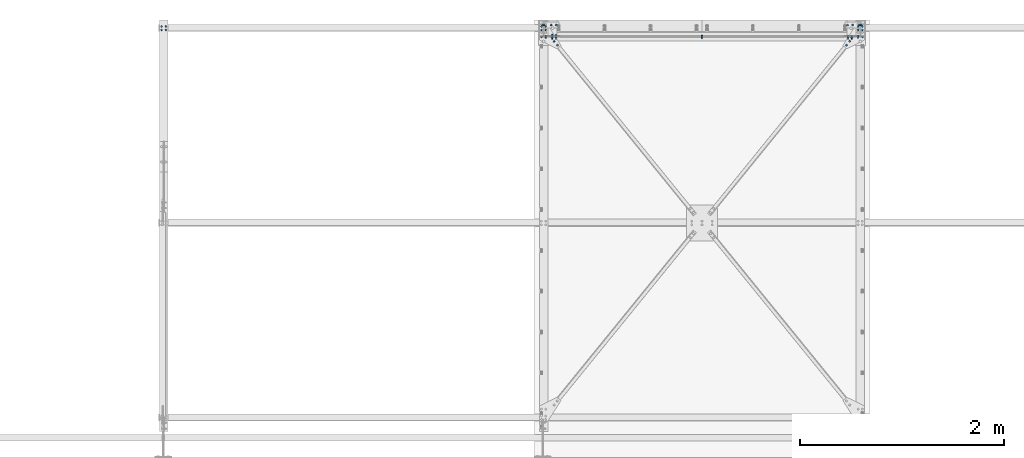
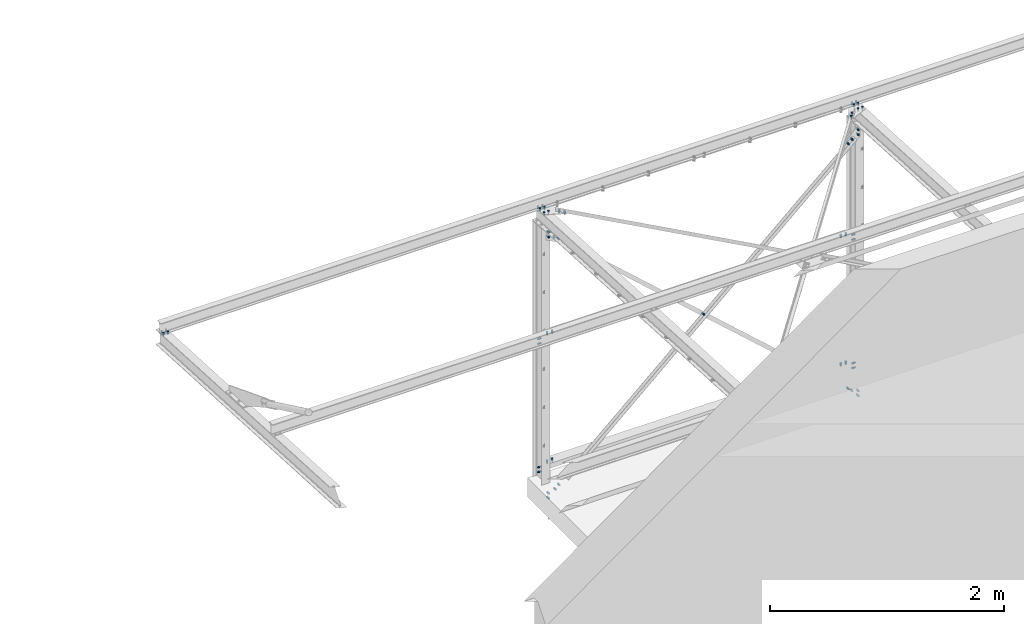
# One storey, part 8 of 10: 24 mechanical fasteners.
"""IFC2X3 building model written with IfcOpenShell, lengths in millimetres."""

from ifc_helpers import new_model, si_unit, frame, origin_with_axes, origin_2d_with_axis, place, context, subcontext, project, spatial, polyline, circle, outline, extrude, source, transform, mapped, material, type_object, element, save


model = new_model("IFC2X3")

# Units and contexts
model_context = context("Model", 3, precision=1e-05, world=origin_with_axes())
body_context = subcontext(model_context, "Body", "Model", "MODEL_VIEW")
ifc_project = project(units=[si_unit("LENGTHUNIT", "METRE", prefix="MILLI"), si_unit("AREAUNIT", "SQUARE_METRE"), si_unit("VOLUMEUNIT", "CUBIC_METRE"), si_unit("MASSUNIT", "GRAM", prefix="KILO"), si_unit("TIMEUNIT", "SECOND"), si_unit("PLANEANGLEUNIT", "RADIAN"), si_unit("SOLIDANGLEUNIT", "STERADIAN"), si_unit("THERMODYNAMICTEMPERATUREUNIT", "DEGREE_CELSIUS"), si_unit("LUMINOUSINTENSITYUNIT", "LUMEN")], contexts=[model_context])

# Site, building, storey
site_placement = place(None, origin_with_axes())
site = spatial("IfcSite", under=ifc_project, at=site_placement, Name="Undefined", CompositionType="ELEMENT")
building_placement = place(site_placement, origin_with_axes())
building = spatial("IfcBuilding", under=site, at=building_placement, Name="Undefined", CompositionType="ELEMENT")
storey_placement = place(building_placement, origin_with_axes())
storey = spatial("IfcBuildingStorey", under=building, at=storey_placement, Name="Undefined", CompositionType="ELEMENT", Elevation=0.0)

# Mechanical fasteners
ifc_material_1 = material(Name="8.8-SB-GALVA")
mechanical_fastener_type = type_object("IfcMechanicalFastenerType", Name="Bolt assembly")
shared_shape_1 = source(origin_with_axes(), body_context, "Body", "SweptSolid", [
    extrude(circle(Radius=7.0, at=origin_2d_with_axis()), frame((0.0, 2.40006625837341, 0.0), z_axis=(0.0, 1.0, 0.0), x_axis=(1.0, 0.0, 0.0)), (0.0, 0.0, 1.0), 4.1),
    extrude(circle(Radius=7.0, at=origin_2d_with_axis()), frame((0.0, -2.4000000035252, 0.0), z_axis=(0.0, 1.0, 0.0), x_axis=(1.0, 0.0, 0.0)), (0.0, 0.0, 1.0), 5.0),
    extrude(outline(polyline([(10.39230484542, 0.0), (5.19615242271, 9.00000000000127), (-5.19615242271, 9.00000000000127), (-10.39230484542, 0.0), (-5.19615242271, -9.00000000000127), (5.19615242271, -9.00000000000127), (10.39230484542, 0.0)])), frame((0.0, -10.4200000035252, 0.0), z_axis=(0.0, 1.0, 0.0), x_axis=(1.0, 0.0, 0.0)), (0.0, 0.0, 1.0), 7.92),
    extrude(circle(Radius=6.0, at=origin_2d_with_axis()), frame((0.0, -2.5000000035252, 0.0), z_axis=(0.0, 1.0, 0.0), x_axis=(1.0, 0.0, 0.0)), (0.0, 0.0, 1.0), 30.0),
    extrude(outline(polyline([(11.5008173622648, 0.0), (5.7504086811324, 9.96000000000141), (-5.7504086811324, 9.96000000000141), (-11.5008173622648, 0.0), (-5.7504086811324, -9.96000000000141), (5.7504086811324, -9.96000000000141), (11.5008173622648, 0.0)])), frame((0.0, 6.50006625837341, 0.0), z_axis=(0.0, 1.0, 0.0), x_axis=(1.0, 0.0, 0.0)), (0.0, 0.0, 1.0), 7.92),
])
mechanical_fastener_1_placement = place(storey_placement, frame((28987.1427146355, 29157.5, 2549.67857384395), z_axis=(0.666970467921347, 0.0, 0.745084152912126), x_axis=(0.745084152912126, 0.0, -0.666970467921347)))
element("IfcMechanicalFastener", 1, at=mechanical_fastener_1_placement, inside=storey, type_object=mechanical_fastener_type, material=ifc_material_1, Name="Bolt assembly", NominalDiameter=12.0, NominalLength=30.0, context=body_context, shape_type="MappedRepresentation", body=[
    mapped(shared_shape_1, transform((0.0, 0.0, 0.0))),
    mapped(shared_shape_1, transform((50.00000000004, 0.0, 1.45519152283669e-10))),
])
shared_shape_2 = source(origin_with_axes(), body_context, "Body", "SweptSolid", [
    extrude(circle(Radius=7.0, at=origin_2d_with_axis()), frame((0.0, -3.90006625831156, 0.0), z_axis=(0.0, 1.0, 0.0), x_axis=(1.0, 0.0, 0.0)), (0.0, 0.0, 1.0), 4.0),
    extrude(circle(Radius=7.0, at=origin_2d_with_axis()), frame((0.0, 4.89993376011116, 0.0), z_axis=(0.0, 1.0, 0.0), x_axis=(1.0, 0.0, 0.0)), (0.0, 0.0, 1.0), 4.1),
    extrude(outline(polyline([(10.39230484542, 0.0), (5.19615242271, 9.00000000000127), (-5.19615242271, 9.00000000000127), (-10.39230484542, 0.0), (-5.19615242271, -9.00000000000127), (5.19615242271, -9.00000000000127), (10.39230484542, 0.0)])), frame((0.0, -11.9200662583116, 0.0), z_axis=(0.0, 1.0, 0.0), x_axis=(1.0, 0.0, 0.0)), (0.0, 0.0, 1.0), 7.92),
    extrude(circle(Radius=6.0, at=origin_2d_with_axis()), frame((0.0, -4.00006625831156, 0.0), z_axis=(0.0, 1.0, 0.0), x_axis=(1.0, 0.0, 0.0)), (0.0, 0.0, 1.0), 30.0),
    extrude(outline(polyline([(11.5008173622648, 0.0), (5.7504086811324, 9.96000000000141), (-5.7504086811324, 9.96000000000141), (-11.5008173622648, 0.0), (-5.7504086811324, -9.96000000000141), (5.7504086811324, -9.96000000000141), (11.5008173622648, 0.0)])), frame((0.0, 8.9999337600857, 0.0), z_axis=(0.0, 1.0, 0.0), x_axis=(1.0, 0.0, 0.0)), (0.0, 0.0, 1.0), 7.92),
])
mechanical_fastener_2_placement = place(storey_placement, frame((30452.999913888, 29160.0, 1237.49999863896), z_axis=(-1.0, 0.0, 0.0), x_axis=(1.80000123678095e-08, 0.0, -1.0)))
element("IfcMechanicalFastener", 2, at=mechanical_fastener_2_placement, inside=storey, type_object=mechanical_fastener_type, material=ifc_material_1, Name="Bolt assembly", NominalDiameter=12.0, NominalLength=30.0, context=body_context, shape_type="MappedRepresentation", body=[
    mapped(shared_shape_2, transform((0.0, 0.0, 0.0))),
])
shared_shape_3 = source(origin_with_axes(), body_context, "Body", "SweptSolid", [
    extrude(circle(Radius=7.0, at=origin_2d_with_axis()), frame((0.0, -6.40006625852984, 0.0), z_axis=(0.0, 1.0, 0.0), x_axis=(1.0, 0.0, 0.0)), (0.0, 0.0, 1.0), 4.0),
    extrude(circle(Radius=7.0, at=origin_2d_with_axis()), frame((0.0, -2.60000006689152, 0.0), z_axis=(0.0, 1.0, 0.0), x_axis=(1.0, 0.0, 0.0)), (0.0, 0.0, 1.0), 5.1),
    extrude(outline(polyline([(10.39230484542, 0.0), (5.19615242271, 9.00000000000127), (-5.19615242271, 9.00000000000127), (-10.39230484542, 0.0), (-5.19615242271, -9.00000000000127), (5.19615242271, -9.00000000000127), (10.39230484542, 0.0)])), frame((0.0, -14.4200662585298, 0.0), z_axis=(0.0, 1.0, 0.0), x_axis=(1.0, 0.0, 0.0)), (0.0, 0.0, 1.0), 7.92),
    extrude(circle(Radius=6.0, at=origin_2d_with_axis()), frame((0.0, -6.50006625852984, 0.0), z_axis=(0.0, 1.0, 0.0), x_axis=(1.0, 0.0, 0.0)), (0.0, 0.0, 1.0), 30.0),
    extrude(outline(polyline([(11.5008173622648, 0.0), (5.7504086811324, 9.96000000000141), (-5.7504086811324, 9.96000000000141), (-11.5008173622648, 0.0), (-5.7504086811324, -9.96000000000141), (5.7504086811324, -9.96000000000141), (11.5008173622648, 0.0)])), frame((0.0, 2.49999993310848, 0.0), z_axis=(0.0, 1.0, 0.0), x_axis=(1.0, 0.0, 0.0)), (0.0, 0.0, 1.0), 7.92),
])
mechanical_fastener_3_placement = place(storey_placement, frame((31918.8572022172, 29157.5, -74.6786560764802), z_axis=(0.666970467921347, 0.0, 0.745084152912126), x_axis=(-0.74508415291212, 0.0, 0.666970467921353)))
element("IfcMechanicalFastener", 3, at=mechanical_fastener_3_placement, inside=storey, type_object=mechanical_fastener_type, material=ifc_material_1, Name="Bolt assembly", NominalDiameter=12.0, NominalLength=30.0, context=body_context, shape_type="MappedRepresentation", body=[
    mapped(shared_shape_3, transform((0.0, 0.0, 0.0))),
    mapped(shared_shape_3, transform((50.00000000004, 0.0, 1.45519152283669e-10))),
])
shared_shape_4 = source(origin_with_axes(), body_context, "Body", "SweptSolid", [
    extrude(circle(Radius=7.0, at=origin_2d_with_axis()), frame((0.0, 2.39993376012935, 0.0), z_axis=(0.0, 1.0, 0.0), x_axis=(1.0, 0.0, 0.0)), (0.0, 0.0, 1.0), 4.1),
    extrude(circle(Radius=7.0, at=origin_2d_with_axis()), frame((0.0, -2.4000000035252, 0.0), z_axis=(0.0, 1.0, 0.0), x_axis=(1.0, 0.0, 0.0)), (0.0, 0.0, 1.0), 5.0),
    extrude(outline(polyline([(10.39230484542, 0.0), (5.19615242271, 9.00000000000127), (-5.19615242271, 9.00000000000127), (-10.39230484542, 0.0), (-5.19615242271, -9.00000000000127), (5.19615242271, -9.00000000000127), (10.39230484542, 0.0)])), frame((0.0, -10.4200000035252, 0.0), z_axis=(0.0, 1.0, 0.0), x_axis=(1.0, 0.0, 0.0)), (0.0, 0.0, 1.0), 7.92),
    extrude(circle(Radius=6.0, at=origin_2d_with_axis()), frame((0.0, -2.5000000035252, 0.0), z_axis=(0.0, 1.0, 0.0), x_axis=(1.0, 0.0, 0.0)), (0.0, 0.0, 1.0), 30.0),
    extrude(outline(polyline([(11.5008173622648, 0.0), (5.7504086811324, 9.96000000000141), (-5.7504086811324, 9.96000000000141), (-11.5008173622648, 0.0), (-5.7504086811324, -9.96000000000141), (5.7504086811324, -9.96000000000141), (11.5008173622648, 0.0)])), frame((0.0, 6.49993376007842, 0.0), z_axis=(0.0, 1.0, 0.0), x_axis=(1.0, 0.0, 0.0)), (0.0, 0.0, 1.0), 7.92),
])
for number, where, z_axis, x_axis, name in (
    (4, (28987.1427142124, 29157.5, -74.6786701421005), (0.666970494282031, 0.0, -0.745084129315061), (0.745084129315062, 0.0, 0.66697049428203), "Bolt assembly"),
    (5, (31918.8571655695, 29157.5, 2549.67871421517), (-0.666970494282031, 0.0, 0.745084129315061), (-0.745084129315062, 0.0, -0.666970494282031), "Bolt assembly"),
):
    element("IfcMechanicalFastener", number, at=place(storey_placement, frame(where, z_axis=z_axis, x_axis=x_axis)), inside=storey, type_object=mechanical_fastener_type, material=ifc_material_1, Name=name, NominalDiameter=12.0, NominalLength=30.0, context=body_context, shape_type="MappedRepresentation", body=[
        mapped(shared_shape_4, transform((0.0, 0.0, 0.0))),
        mapped(shared_shape_4, transform((50.00000000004, 0.0, 1.45519152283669e-10))),
    ])
shared_shape_5 = source(origin_with_axes(), body_context, "Body", "SweptSolid", [
    extrude(circle(Radius=7.0, at=origin_2d_with_axis()), frame((0.0, -7.30184983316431, 0.0), z_axis=(0.0, 1.0, 0.0), x_axis=(1.0, 0.0, 0.0)), (0.0, 0.0, 1.0), 7.4),
    extrude(circle(Radius=7.0, at=origin_2d_with_axis()), frame((0.0, -0.10176059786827, 0.0), z_axis=(0.0, 1.0, 0.0), x_axis=(1.0, 0.0, 0.0)), (0.0, 0.0, 1.0), 5.1),
    extrude(outline(polyline([(10.39230484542, 0.0), (5.19615242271, 9.00000000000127), (-5.19615242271, 9.00000000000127), (-10.39230484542, 0.0), (-5.19615242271, -9.00000000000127), (5.19615242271, -9.00000000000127), (10.39230484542, 0.0)])), frame((0.0, -15.3218498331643, 0.0), z_axis=(0.0, 1.0, 0.0), x_axis=(1.0, 0.0, 0.0)), (0.0, 0.0, 1.0), 7.92),
    extrude(circle(Radius=6.0, at=origin_2d_with_axis()), frame((0.0, -7.40184983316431, 0.0), z_axis=(0.0, 1.0, 0.0), x_axis=(1.0, 0.0, 0.0)), (0.0, 0.0, 1.0), 30.0),
    extrude(outline(polyline([(11.5008173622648, 0.0), (5.7504086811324, 9.96000000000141), (-5.7504086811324, 9.96000000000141), (-11.5008173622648, 0.0), (-5.7504086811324, -9.96000000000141), (5.7504086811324, -9.96000000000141), (11.5008173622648, 0.0)])), frame((0.0, 4.99823941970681, 0.0), z_axis=(0.0, 1.0, 0.0), x_axis=(1.0, 0.0, 0.0)), (0.0, 0.0, 1.0), 7.92),
])
mechanical_fastener_4_placement = place(storey_placement, frame((31981.9998621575, 29159.9982394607, 2624.99961292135), z_axis=(-0.999999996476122, -8.38360000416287e-05, 4.39099999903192e-06), x_axis=(-4.39100001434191e-06, 0.0, -0.99999999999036)))
element("IfcMechanicalFastener", 6, at=mechanical_fastener_4_placement, inside=storey, type_object=mechanical_fastener_type, material=ifc_material_1, Name="Bolt assembly", NominalDiameter=12.0, NominalLength=30.0, context=body_context, shape_type="MappedRepresentation", body=[
    mapped(shared_shape_5, transform((0.0, 0.0, 0.0))),
    mapped(shared_shape_5, transform((50.00000000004, 0.0, 1.45519152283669e-10))),
])
shared_shape_6 = source(origin_with_axes(), body_context, "Body", "SweptSolid", [
    extrude(circle(Radius=7.0, at=origin_2d_with_axis()), frame((0.0, -7.29830585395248, 0.0), z_axis=(0.0, 1.0, 0.0), x_axis=(1.0, 0.0, 0.0)), (0.0, 0.0, 1.0), 7.4),
    extrude(circle(Radius=7.0, at=origin_2d_with_axis()), frame((0.0, -0.0982394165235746, 0.0), z_axis=(0.0, 1.0, 0.0), x_axis=(1.0, 0.0, 0.0)), (0.0, 0.0, 1.0), 5.1),
    extrude(outline(polyline([(10.39230484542, 0.0), (5.19615242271, 9.00000000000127), (-5.19615242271, 9.00000000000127), (-10.39230484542, 0.0), (-5.19615242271, -9.00000000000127), (5.19615242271, -9.00000000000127), (10.39230484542, 0.0)])), frame((0.0, -15.3183058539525, 0.0), z_axis=(0.0, 1.0, 0.0), x_axis=(1.0, 0.0, 0.0)), (0.0, 0.0, 1.0), 7.92),
    extrude(circle(Radius=6.0, at=origin_2d_with_axis()), frame((0.0, -7.39830585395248, 0.0), z_axis=(0.0, 1.0, 0.0), x_axis=(1.0, 0.0, 0.0)), (0.0, 0.0, 1.0), 30.0),
    extrude(outline(polyline([(11.5008173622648, 0.0), (5.7504086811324, 9.96000000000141), (-5.7504086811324, 9.96000000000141), (-11.5008173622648, 0.0), (-5.7504086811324, -9.96000000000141), (5.7504086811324, -9.96000000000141), (11.5008173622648, 0.0)])), frame((0.0, 5.0017606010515, 0.0), z_axis=(0.0, 1.0, 0.0), x_axis=(1.0, 0.0, 0.0)), (0.0, 0.0, 1.0), 7.92),
])
mechanical_fastener_5_placement = place(storey_placement, frame((28923.9998592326, 29160.00176058, 2624.99990587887), z_axis=(-0.999999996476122, -8.38360000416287e-05, 4.39099999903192e-06), x_axis=(-4.39100001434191e-06, 0.0, -0.99999999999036)))
element("IfcMechanicalFastener", 7, at=mechanical_fastener_5_placement, inside=storey, type_object=mechanical_fastener_type, material=ifc_material_1, Name="Bolt assembly", NominalDiameter=12.0, NominalLength=30.0, context=body_context, shape_type="MappedRepresentation", body=[
    mapped(shared_shape_6, transform((0.0, 0.0, 0.0))),
    mapped(shared_shape_6, transform((50.00000000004, 0.0, 1.45519152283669e-10))),
])
shared_shape_7 = source(origin_with_axes(), body_context, "Body", "SweptSolid", [
    extrude(circle(Radius=7.0, at=origin_2d_with_axis()), frame((0.0, -7.30007158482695, 0.0), z_axis=(0.0, 1.0, 0.0), x_axis=(1.0, 0.0, 0.0)), (0.0, 0.0, 1.0), 7.4),
    extrude(circle(Radius=7.0, at=origin_2d_with_axis()), frame((0.0, -0.100005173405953, 0.0), z_axis=(0.0, 1.0, 0.0), x_axis=(1.0, 0.0, 0.0)), (0.0, 0.0, 1.0), 5.1),
    extrude(outline(polyline([(10.39230484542, 0.0), (5.19615242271, 9.00000000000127), (-5.19615242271, 9.00000000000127), (-10.39230484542, 0.0), (-5.19615242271, -9.00000000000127), (5.19615242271, -9.00000000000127), (10.39230484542, 0.0)])), frame((0.0, -15.3200715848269, 0.0), z_axis=(0.0, 1.0, 0.0), x_axis=(1.0, 0.0, 0.0)), (0.0, 0.0, 1.0), 7.92),
    extrude(circle(Radius=6.0, at=origin_2d_with_axis()), frame((0.0, -7.40002311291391, 0.0), z_axis=(0.0, 1.0, 0.0), x_axis=(1.0, 0.0, 0.0)), (0.0, 0.0, 1.0), 30.0),
    extrude(outline(polyline([(11.5008173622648, 0.0), (5.7504086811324, 9.96000000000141), (-5.7504086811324, 9.96000000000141), (-11.5008173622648, 0.0), (-5.7504086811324, -9.96000000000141), (5.7504086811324, -9.96000000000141), (11.5008173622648, 0.0)])), frame((0.0, 4.99999482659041, 0.0), z_axis=(0.0, 1.0, 0.0), x_axis=(1.0, 0.0, 0.0)), (0.0, 0.0, 1.0), 7.92),
])
mechanical_fastener_6_placement = place(storey_placement, frame((28923.9999698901, 29159.9999948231, -149.999999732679), z_axis=(1.0, 0.0, 0.0), x_axis=(0.0, 0.0, 1.0)))
element("IfcMechanicalFastener", 8, at=mechanical_fastener_6_placement, inside=storey, type_object=mechanical_fastener_type, material=ifc_material_1, Name="Bolt assembly", NominalDiameter=12.0, NominalLength=30.0, context=body_context, shape_type="MappedRepresentation", body=[
    mapped(shared_shape_7, transform((0.0, 0.0, 0.0))),
    mapped(shared_shape_7, transform((50.00000000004, 0.0, 1.45519152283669e-10))),
])
shared_shape_8 = source(origin_with_axes(), body_context, "Body", "SweptSolid", [
    extrude(circle(Radius=7.0, at=origin_2d_with_axis()), frame((0.0, -7.30007158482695, 0.0), z_axis=(0.0, 1.0, 0.0), x_axis=(1.0, 0.0, 0.0)), (0.0, 0.0, 1.0), 7.4),
    extrude(circle(Radius=7.0, at=origin_2d_with_axis()), frame((0.0, -0.100005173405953, 0.0), z_axis=(0.0, 1.0, 0.0), x_axis=(1.0, 0.0, 0.0)), (0.0, 0.0, 1.0), 5.1),
    extrude(outline(polyline([(10.39230484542, 0.0), (5.19615242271, 9.00000000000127), (-5.19615242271, 9.00000000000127), (-10.39230484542, 0.0), (-5.19615242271, -9.00000000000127), (5.19615242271, -9.00000000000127), (10.39230484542, 0.0)])), frame((0.0, -15.3200715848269, 0.0), z_axis=(0.0, 1.0, 0.0), x_axis=(1.0, 0.0, 0.0)), (0.0, 0.0, 1.0), 7.92),
    extrude(circle(Radius=6.0, at=origin_2d_with_axis()), frame((0.0, -7.40008403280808, 0.0), z_axis=(0.0, 1.0, 0.0), x_axis=(1.0, 0.0, 0.0)), (0.0, 0.0, 1.0), 30.0),
    extrude(outline(polyline([(11.5008173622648, 0.0), (5.7504086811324, 9.96000000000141), (-5.7504086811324, 9.96000000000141), (-11.5008173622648, 0.0), (-5.7504086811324, -9.96000000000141), (5.7504086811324, -9.96000000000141), (11.5008173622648, 0.0)])), frame((0.0, 4.99999482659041, 0.0), z_axis=(0.0, 1.0, 0.0), x_axis=(1.0, 0.0, 0.0)), (0.0, 0.0, 1.0), 7.92),
])
mechanical_fastener_7_placement = place(storey_placement, frame((31981.9999712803, 29160.0000052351, -150.000000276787), z_axis=(1.0, 0.0, 0.0), x_axis=(0.0, 0.0, 1.0)))
element("IfcMechanicalFastener", 9, at=mechanical_fastener_7_placement, inside=storey, type_object=mechanical_fastener_type, material=ifc_material_1, Name="Bolt assembly", NominalDiameter=12.0, NominalLength=30.0, context=body_context, shape_type="MappedRepresentation", body=[
    mapped(shared_shape_8, transform((0.0, 0.0, 0.0))),
    mapped(shared_shape_8, transform((50.00000000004, 0.0, 1.45519152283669e-10))),
])
shared_shape_9 = source(origin_with_axes(), body_context, "Body", "SweptSolid", [
    extrude(circle(Radius=7.0, at=origin_2d_with_axis()), frame((0.0, 0.100000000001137, 0.0), z_axis=(0.0, 1.0, 0.0), x_axis=(1.0, 0.0, 0.0)), (0.0, 0.0, 1.0), 4.0),
    extrude(circle(Radius=7.0, at=origin_2d_with_axis()), frame((0.0, 3.89999939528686, 0.0), z_axis=(0.0, 1.0, 0.0), x_axis=(1.0, 0.0, 0.0)), (0.0, 0.0, 1.0), 5.1),
    extrude(outline(polyline([(10.39230484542, 0.0), (5.19615242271, 9.00000000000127), (-5.19615242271, 9.00000000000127), (-10.39230484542, 0.0), (-5.19615242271, -9.00000000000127), (5.19615242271, -9.00000000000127), (10.39230484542, 0.0)])), frame((0.0, -7.91999999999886, 0.0), z_axis=(0.0, 1.0, 0.0), x_axis=(1.0, 0.0, 0.0)), (0.0, 0.0, 1.0), 7.92),
    extrude(circle(Radius=6.0, at=origin_2d_with_axis()), frame((0.0, 0.0, 0.0), z_axis=(0.0, 1.0, 0.0), x_axis=(1.0, 0.0, 0.0)), (0.0, 0.0, 1.0), 30.0),
    extrude(outline(polyline([(11.5008173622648, 0.0), (5.7504086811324, 9.96000000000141), (-5.7504086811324, 9.96000000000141), (-11.5008173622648, 0.0), (-5.7504086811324, -9.96000000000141), (5.7504086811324, -9.96000000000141), (11.5008173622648, 0.0)])), frame((0.0, 8.99999939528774, 0.0), z_axis=(0.0, 1.0, 0.0), x_axis=(1.0, 0.0, 0.0)), (0.0, 0.0, 1.0), 7.92),
])
for number, where, z_axis, x_axis, name in (
    (10, (29027.9942734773, 29270.0000223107, 150.0), (-8.92000021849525e-07, -0.999999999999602, 0.0), (-1.0, 0.0, 0.0), "Bolt assembly"),
    (11, (29027.9942734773, 29270.0000223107, 1490.0), (-8.92000021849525e-07, -0.999999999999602, 0.0), (-1.0, 0.0, 0.0), "Bolt assembly"),
    (12, (31877.9999406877, 29270.000022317, 150.0), (0.0, 1.0, 0.0), (1.0, 0.0, 0.0), "Bolt assembly"),
    (13, (31877.9999406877, 29270.000022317, 1490.0), (0.0, 1.0, 0.0), (1.0, 0.0, 0.0), "Bolt assembly"),
):
    element("IfcMechanicalFastener", number, at=place(storey_placement, frame(where, z_axis=z_axis, x_axis=x_axis)), inside=storey, type_object=mechanical_fastener_type, material=ifc_material_1, Name=name, NominalDiameter=12.0, NominalLength=30.0, context=body_context, shape_type="MappedRepresentation", body=[
        mapped(shared_shape_9, transform((0.0, 0.0, 0.0))),
        mapped(shared_shape_9, transform((50.00000000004, 0.0, 1.45519152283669e-10))),
    ])
shared_shape_10 = source(origin_with_axes(), body_context, "Body", "SweptSolid", [
    extrude(circle(Radius=7.0, at=origin_2d_with_axis()), frame((0.0, -2.60569496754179, 0.0), z_axis=(0.0, 1.0, 0.0), x_axis=(1.0, 0.0, 0.0)), (0.0, 0.0, 1.0), 5.1),
    extrude(circle(Radius=7.0, at=origin_2d_with_axis()), frame((0.0, -7.8999994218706, 0.0), z_axis=(0.0, 1.0, 0.0), x_axis=(1.0, 0.0, 0.0)), (0.0, 0.0, 1.0), 5.0),
    extrude(outline(polyline([(10.39230484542, 0.0), (5.19615242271, 9.00000000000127), (-5.19615242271, 9.00000000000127), (-10.39230484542, 0.0), (-5.19615242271, -9.00000000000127), (5.19615242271, -9.00000000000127), (10.39230484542, 0.0)])), frame((0.0, -15.9199994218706, 0.0), z_axis=(0.0, 1.0, 0.0), x_axis=(1.0, 0.0, 0.0)), (0.0, 0.0, 1.0), 7.92),
    extrude(circle(Radius=6.0, at=origin_2d_with_axis()), frame((0.0, -7.9999994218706, 0.0), z_axis=(0.0, 1.0, 0.0), x_axis=(1.0, 0.0, 0.0)), (0.0, 0.0, 1.0), 30.0),
    extrude(outline(polyline([(11.5008173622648, 0.0), (5.7504086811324, 9.96000000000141), (-5.7504086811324, 9.96000000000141), (-11.5008173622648, 0.0), (-5.7504086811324, -9.96000000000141), (5.7504086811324, -9.96000000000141), (11.5008173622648, 0.0)])), frame((0.0, 2.49430503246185, 0.0), z_axis=(0.0, 1.0, 0.0), x_axis=(1.0, 0.0, 0.0)), (0.0, 0.0, 1.0), 7.92),
])
for number, where, z_axis, x_axis, name in (
    (14, (28902.994243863, 29270.0000000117, 61.0000006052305), (-8.92000021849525e-07, -0.999999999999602, 0.0), (0.0, 0.0, 1.0), "Bolt assembly"),
    (15, (28902.994243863, 29270.0000000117, 1401.00000060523), (-8.92000021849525e-07, -0.999999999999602, 0.0), (0.0, 0.0, 1.0), "Bolt assembly"),
):
    element("IfcMechanicalFastener", number, at=place(storey_placement, frame(where, z_axis=z_axis, x_axis=x_axis)), inside=storey, type_object=mechanical_fastener_type, material=ifc_material_1, Name=name, NominalDiameter=12.0, NominalLength=30.0, context=body_context, shape_type="MappedRepresentation", body=[
        mapped(shared_shape_10, transform((0.0, 0.0, 0.0))),
        mapped(shared_shape_10, transform((50.00000000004, 0.0, 1.45519152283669e-10))),
    ])
shared_shape_11 = source(origin_with_axes(), body_context, "Body", "SweptSolid", [
    extrude(circle(Radius=7.0, at=origin_2d_with_axis()), frame((0.0, -2.60000006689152, 0.0), z_axis=(0.0, 1.0, 0.0), x_axis=(1.0, 0.0, 0.0)), (0.0, 0.0, 1.0), 5.1),
    extrude(circle(Radius=7.0, at=origin_2d_with_axis()), frame((0.0, -7.8999994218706, 0.0), z_axis=(0.0, 1.0, 0.0), x_axis=(1.0, 0.0, 0.0)), (0.0, 0.0, 1.0), 5.0),
    extrude(outline(polyline([(10.39230484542, 0.0), (5.19615242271, 9.00000000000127), (-5.19615242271, 9.00000000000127), (-10.39230484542, 0.0), (-5.19615242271, -9.00000000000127), (5.19615242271, -9.00000000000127), (10.39230484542, 0.0)])), frame((0.0, -15.9199994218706, 0.0), z_axis=(0.0, 1.0, 0.0), x_axis=(1.0, 0.0, 0.0)), (0.0, 0.0, 1.0), 7.92),
    extrude(circle(Radius=6.0, at=origin_2d_with_axis()), frame((0.0, -7.9999994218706, 0.0), z_axis=(0.0, 1.0, 0.0), x_axis=(1.0, 0.0, 0.0)), (0.0, 0.0, 1.0), 30.0),
    extrude(outline(polyline([(11.5008173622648, 0.0), (5.7504086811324, 9.96000000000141), (-5.7504086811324, 9.96000000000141), (-11.5008173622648, 0.0), (-5.7504086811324, -9.96000000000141), (5.7504086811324, -9.96000000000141), (11.5008173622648, 0.0)])), frame((0.0, 2.49999993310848, 0.0), z_axis=(0.0, 1.0, 0.0), x_axis=(1.0, 0.0, 0.0)), (0.0, 0.0, 1.0), 7.92),
])
for number, where, z_axis, x_axis, name in (
    (16, (32002.999970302, 29270.0000000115, 61.0000006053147), (0.0, 1.0, 0.0), (0.0, 0.0, 1.0), "Bolt assembly"),
    (17, (32002.999970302, 29270.0000000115, 1401.00000060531), (0.0, 1.0, 0.0), (0.0, 0.0, 1.0), "Bolt assembly"),
):
    element("IfcMechanicalFastener", number, at=place(storey_placement, frame(where, z_axis=z_axis, x_axis=x_axis)), inside=storey, type_object=mechanical_fastener_type, material=ifc_material_1, Name=name, NominalDiameter=12.0, NominalLength=30.0, context=body_context, shape_type="MappedRepresentation", body=[
        mapped(shared_shape_11, transform((0.0, 0.0, 0.0))),
        mapped(shared_shape_11, transform((50.00000000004, 0.0, 1.45519152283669e-10))),
    ])
ifc_material_2 = material(Name="6.8")
shared_shape_12 = source(origin_with_axes(), body_context, "Body", "SweptSolid", [
    extrude(circle(Radius=6.0, at=origin_2d_with_axis()), frame((0.0, -0.100005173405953, 0.0), z_axis=(0.0, 1.0, 0.0), x_axis=(1.0, 0.0, 0.0)), (0.0, 0.0, 1.0), 7.5),
    extrude(circle(Radius=6.0, at=origin_2d_with_axis()), frame((0.0, -2.4000000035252, 0.0), z_axis=(0.0, 1.0, 0.0), x_axis=(1.0, 0.0, 0.0)), (0.0, 0.0, 1.0), 5.0),
    extrude(outline(polyline([(9.81495457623, 0.0), (4.907477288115, 8.5000000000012), (-4.907477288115, 8.5000000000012), (-9.81495457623, 0.0), (-4.907477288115, -8.5000000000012), (4.907477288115, -8.5000000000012), (9.81495457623, 0.0)])), frame((0.0, -9.99999892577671, 0.0), z_axis=(0.0, 1.0, 0.0), x_axis=(1.0, 0.0, 0.0)), (0.0, 0.0, 1.0), 7.5),
    extrude(circle(Radius=5.0, at=origin_2d_with_axis()), frame((0.0, -2.5000000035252, 0.0), z_axis=(0.0, 1.0, 0.0), x_axis=(1.0, 0.0, 0.0)), (0.0, 0.0, 1.0), 30.0),
    extrude(outline(polyline([(9.23760430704, 0.0), (4.61880215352, 8.00000000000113), (-4.61880215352, 8.00000000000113), (-9.23760430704, 0.0), (-4.61880215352, -8.00000000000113), (4.61880215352, -8.00000000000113), (9.23760430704, 0.0)])), frame((0.0, 7.40000130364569, 0.0), z_axis=(0.0, 1.0, 0.0), x_axis=(1.0, 0.0, 0.0)), (0.0, 0.0, 1.0), 8.4),
])
for number, where, z_axis, x_axis, name in (
    (18, (32002.9999505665, 29154.0293190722, 2842.50322976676), (-1.0, 0.0, 0.0), (-6.99999093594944e-09, 0.998630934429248, -0.0523092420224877), "Bolt assembly"),
    (19, (28902.9999505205, 29154.0292943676, 2842.50323106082), (-1.0, 0.0, 0.0), (-6.99999093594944e-09, 0.998630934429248, -0.0523092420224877), "Bolt assembly"),
):
    element("IfcMechanicalFastener", number, at=place(storey_placement, frame(where, z_axis=z_axis, x_axis=x_axis)), inside=storey, type_object=mechanical_fastener_type, material=ifc_material_2, Name=name, NominalDiameter=10.0, NominalLength=30.0, context=body_context, shape_type="MappedRepresentation", body=[
        mapped(shared_shape_12, transform((0.0, 0.0, -21.0))),
        mapped(shared_shape_12, transform((0.0, 0.0, 21.0))),
    ])
shared_shape_13 = source(origin_with_axes(), body_context, "Body", "SweptSolid", [
    extrude(circle(Radius=7.0, at=origin_2d_with_axis()), frame((0.0, -6.89999965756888, 0.0), z_axis=(0.0, 1.0, 0.0), x_axis=(1.0, 0.0, 0.0)), (0.0, 0.0, 1.0), 4.0),
    extrude(circle(Radius=7.0, at=origin_2d_with_axis()), frame((0.0, -2.60000006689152, 0.0), z_axis=(0.0, 1.0, 0.0), x_axis=(1.0, 0.0, 0.0)), (0.0, 0.0, 1.0), 5.1),
    extrude(outline(polyline([(10.39230484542, 0.0), (5.19615242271, 9.00000000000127), (-5.19615242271, 9.00000000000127), (-10.39230484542, 0.0), (-5.19615242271, -9.00000000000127), (5.19615242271, -9.00000000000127), (10.39230484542, 0.0)])), frame((0.0, -14.9199996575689, 0.0), z_axis=(0.0, 1.0, 0.0), x_axis=(1.0, 0.0, 0.0)), (0.0, 0.0, 1.0), 7.92),
    extrude(circle(Radius=6.0, at=origin_2d_with_axis()), frame((0.0, -6.99999965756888, 0.0), z_axis=(0.0, 1.0, 0.0), x_axis=(1.0, 0.0, 0.0)), (0.0, 0.0, 1.0), 30.0),
    extrude(outline(polyline([(11.5008173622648, 0.0), (5.7504086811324, 9.96000000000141), (-5.7504086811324, 9.96000000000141), (-11.5008173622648, 0.0), (-5.7504086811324, -9.96000000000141), (5.7504086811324, -9.96000000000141), (11.5008173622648, 0.0)])), frame((0.0, 2.49999993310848, 0.0), z_axis=(0.0, 1.0, 0.0), x_axis=(1.0, 0.0, 0.0)), (0.0, 0.0, 1.0), 7.92),
])
for number, where, z_axis, x_axis, name in (
    (20, (29006.7896570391, 29112.2793146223, 2844.69013130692), (0.776487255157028, 0.629270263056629, -0.0329617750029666), (0.630132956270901, -0.775424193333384, 0.0406174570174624), "Bolt assembly"),
    (21, (31899.2102214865, 29112.2793323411, 2844.69013037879), (0.776487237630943, -0.629270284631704, 0.0329617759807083), (-0.630132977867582, -0.775424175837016, 0.0406174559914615), "Bolt assembly"),
):
    element("IfcMechanicalFastener", number, at=place(storey_placement, frame(where, z_axis=z_axis, x_axis=x_axis)), inside=storey, type_object=mechanical_fastener_type, material=ifc_material_1, Name=name, NominalDiameter=12.0, NominalLength=30.0, context=body_context, shape_type="MappedRepresentation", body=[
        mapped(shared_shape_13, transform((0.0, 0.0, 0.0))),
        mapped(shared_shape_13, transform((50.00000000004, 0.0, 1.45519152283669e-10))),
    ])
shared_shape_14 = source(origin_with_axes(), body_context, "Body", "SweptSolid", [
    extrude(circle(Radius=6.0, at=origin_2d_with_axis()), frame((0.0, -0.100005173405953, 0.0), z_axis=(0.0, 1.0, 0.0), x_axis=(1.0, 0.0, 0.0)), (0.0, 0.0, 1.0), 7.5),
    extrude(circle(Radius=6.0, at=origin_2d_with_axis()), frame((0.0, -6.19999893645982, 0.0), z_axis=(0.0, 1.0, 0.0), x_axis=(1.0, 0.0, 0.0)), (0.0, 0.0, 1.0), 6.3),
    extrude(outline(polyline([(9.81495457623, 0.0), (4.907477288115, 8.5000000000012), (-4.907477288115, 8.5000000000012), (-9.81495457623, 0.0), (-4.907477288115, -8.5000000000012), (4.907477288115, -8.5000000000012), (9.81495457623, 0.0)])), frame((0.0, -13.7999989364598, 0.0), z_axis=(0.0, 1.0, 0.0), x_axis=(1.0, 0.0, 0.0)), (0.0, 0.0, 1.0), 7.5),
    extrude(circle(Radius=5.0, at=origin_2d_with_axis()), frame((0.0, -6.29999893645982, 0.0), z_axis=(0.0, 1.0, 0.0), x_axis=(1.0, 0.0, 0.0)), (0.0, 0.0, 1.0), 30.0),
    extrude(outline(polyline([(9.23760430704, 0.0), (4.61880215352, 8.00000000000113), (-4.61880215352, 8.00000000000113), (-9.23760430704, 0.0), (-4.61880215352, -8.00000000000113), (4.61880215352, -8.00000000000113), (9.23760430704, 0.0)])), frame((0.0, 7.40000130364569, 0.0), z_axis=(0.0, 1.0, 0.0), x_axis=(1.0, 0.0, 0.0)), (0.0, 0.0, 1.0), 8.4),
])
mechanical_fastener_8_placement = place(storey_placement, frame((25163.9999692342, 29240.0000640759, 2837.99999845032), z_axis=(-6.99999093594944e-09, 0.998630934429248, -0.0523092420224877), x_axis=(1.0, 0.0, 0.0)))
element("IfcMechanicalFastener", 22, at=mechanical_fastener_8_placement, inside=storey, type_object=mechanical_fastener_type, material=ifc_material_2, Name="Bolt assembly", NominalDiameter=10.0, NominalLength=30.0, context=body_context, shape_type="MappedRepresentation", body=[
    mapped(shared_shape_14, transform((0.0, 3.18323145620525e-11, -16.9999999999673))),
    mapped(shared_shape_14, transform((42.0, 3.18323145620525e-11, -16.9999999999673))),
    mapped(shared_shape_14, transform((0.0, -3.18323145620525e-11, 16.9999999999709))),
    mapped(shared_shape_14, transform((42.0, -3.18323145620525e-11, 16.9999999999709))),
])
shared_shape_15 = source(origin_with_axes(), body_context, "Body", "SweptSolid", [
    extrude(circle(Radius=6.0, at=origin_2d_with_axis()), frame((0.0, -0.100005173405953, 0.0), z_axis=(0.0, 1.0, 0.0), x_axis=(1.0, 0.0, 0.0)), (0.0, 0.0, 1.0), 7.5),
    extrude(circle(Radius=6.0, at=origin_2d_with_axis()), frame((0.0, -6.19999893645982, 0.0), z_axis=(0.0, 1.0, 0.0), x_axis=(1.0, 0.0, 0.0)), (0.0, 0.0, 1.0), 6.3),
    extrude(circle(Radius=6.0, at=origin_2d_with_axis()), frame((0.0, -2.5000000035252, 0.0), z_axis=(0.0, 1.0, 0.0), x_axis=(1.0, 0.0, 0.0)), (0.0, 0.0, 1.0), 5.0),
    extrude(outline(polyline([(9.81495457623, 0.0), (4.907477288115, 8.5000000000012), (-4.907477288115, 8.5000000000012), (-9.81495457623, 0.0), (-4.907477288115, -8.5000000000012), (4.907477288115, -8.5000000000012), (9.81495457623, 0.0)])), frame((0.0, -13.7999989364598, 0.0), z_axis=(0.0, 1.0, 0.0), x_axis=(1.0, 0.0, 0.0)), (0.0, 0.0, 1.0), 7.5),
    extrude(circle(Radius=5.0, at=origin_2d_with_axis()), frame((0.0, -6.29999893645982, 0.0), z_axis=(0.0, 1.0, 0.0), x_axis=(1.0, 0.0, 0.0)), (0.0, 0.0, 1.0), 30.0),
    extrude(outline(polyline([(9.23760430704, 0.0), (4.61880215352, 8.00000000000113), (-4.61880215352, 8.00000000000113), (-9.23760430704, 0.0), (-4.61880215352, -8.00000000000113), (4.61880215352, -8.00000000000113), (9.23760430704, 0.0)])), frame((0.0, 7.40000130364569, 0.0), z_axis=(0.0, 1.0, 0.0), x_axis=(1.0, 0.0, 0.0)), (0.0, 0.0, 1.0), 8.4),
])
for number, where, z_axis, x_axis, name in (
    (23, (28881.9999389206, 29240.0000641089, 2837.99999844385), (-6.99999093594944e-09, 0.998630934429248, -0.0523092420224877), (1.0, 0.0, 0.0), "Bolt assembly"),
    (24, (32023.9999692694, 29240.0001135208, 2837.9999958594), (0.0, -0.998630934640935, 0.0523092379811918), (-1.0, 0.0, 0.0), "Bolt assembly"),
):
    element("IfcMechanicalFastener", number, at=place(storey_placement, frame(where, z_axis=z_axis, x_axis=x_axis)), inside=storey, type_object=mechanical_fastener_type, material=ifc_material_2, Name=name, NominalDiameter=10.0, NominalLength=30.0, context=body_context, shape_type="MappedRepresentation", body=[
        mapped(shared_shape_15, transform((0.0, 3.18323145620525e-11, -16.9999999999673))),
        mapped(shared_shape_15, transform((42.0, 3.18323145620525e-11, -16.9999999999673))),
        mapped(shared_shape_15, transform((0.0, -3.18323145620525e-11, 16.9999999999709))),
        mapped(shared_shape_15, transform((42.0, -3.18323145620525e-11, 16.9999999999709))),
    ])

save(model, "model.ifc")
